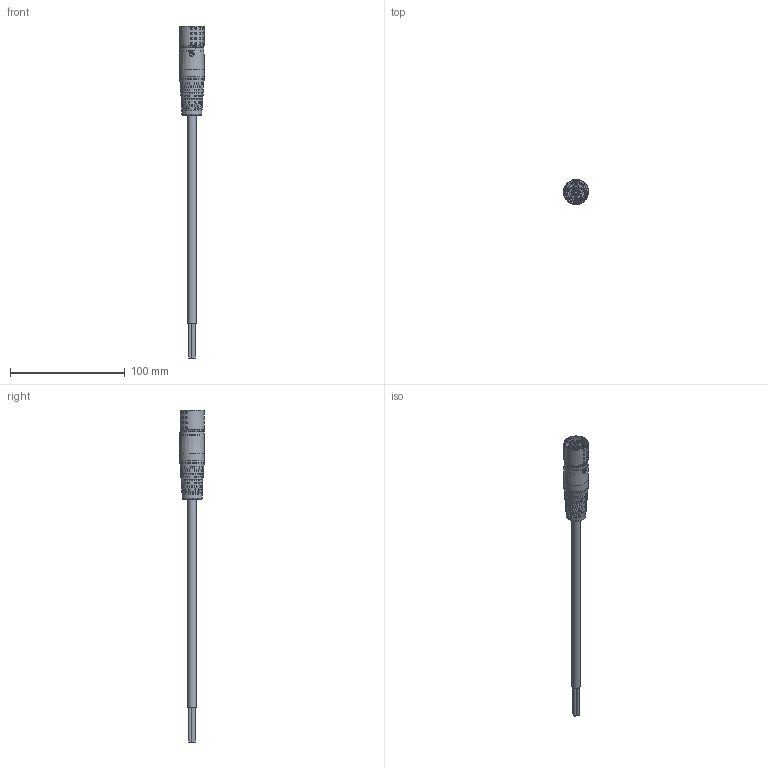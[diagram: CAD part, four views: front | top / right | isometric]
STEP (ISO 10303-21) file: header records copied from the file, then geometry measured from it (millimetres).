
FILE_DESCRIPTION (( 'STEP AP203' ), '1' );
FILE_NAME ('1138002_W-TEC_15K_Glatt_BU_Deckblatt_STEP.STEP', '2023-08-31T11:15:25', ( '' ), ( '' ), 'SwSTEP 2.0', 'SolidWorks 2021', '' );
FILE_SCHEMA (( 'CONFIG_CONTROL_DESIGN' ));
Products named in the file (1): 1138002_W-TEC_15K_Glatt_BU_Deckblatt_STEP
Bounding box: 21.79 x 21.87 x 289.42 mm (x, y, z)
Surface area: 15014.7 mm2 (no closed solid volume)
Topology: 0 solids, 19 shells, 540 faces, 2092 edges, 1487 vertices
Faces by surface type: bspline 256, plane 146, cylinder 110, cone 25, torus 3
Full cylindrical faces by diameter (mm): 2 x3, 3.3 x6, 4 x1, 4.2 x3, 7.4 x1, 11.1 x1, 17.384 x1, 18.304 x1, 18.4 x1, 21.24 x1, 21.72 x1
Entity records: 40203 total; most frequent: CARTESIAN_POINT 26553, ORIENTED_EDGE 3032, EDGE_CURVE 1974, DIRECTION 1854, VERTEX_POINT 1455, B_SPLINE_CURVE_WITH_KNOTS 980, AXIS2_PLACEMENT_3D 670, EDGE_LOOP 665
